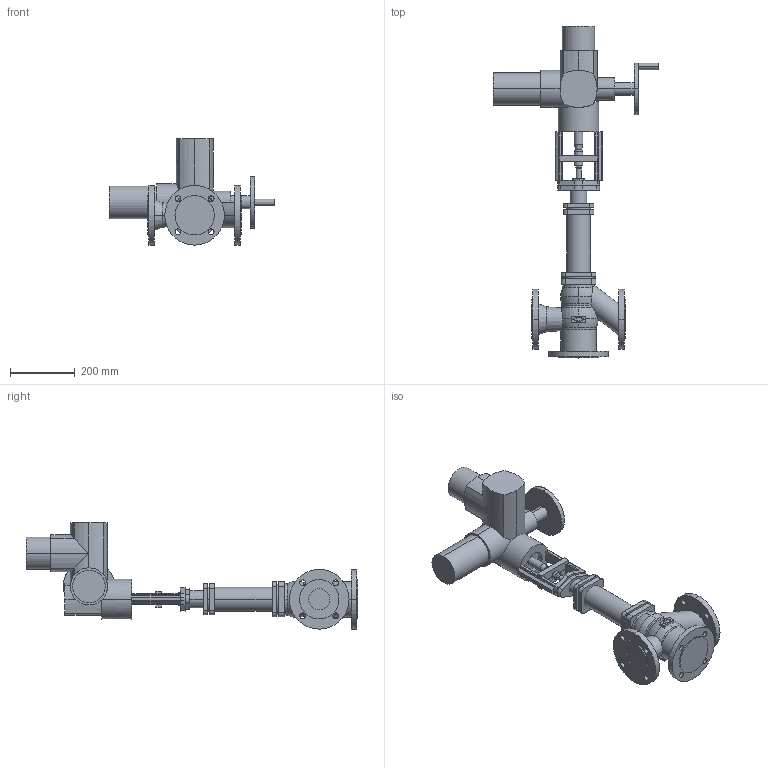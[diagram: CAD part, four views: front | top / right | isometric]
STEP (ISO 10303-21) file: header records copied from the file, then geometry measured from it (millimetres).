
FILE_DESCRIPTION(('OneSpaceDesigner STEP Export'),'2;1');
FILE_NAME('c000003195.stp','2007-01-25T11:50:35',(''),(''),'OneSpace Designer STEP processor for AP214 (Solid Model)','OneSpace Designer 14.00B 27-May-2006 (C) CoCreate Software GmbH','');
FILE_SCHEMA(('AUTOMOTIVE_DESIGN { 1 0 10303 214 1 1 1 1 }'));
Length unit declared in the file: millimetre
Products named in the file (2): 1; 2
Bounding box: 514 x 1029 x 329.5 mm (x, y, z)
Volume: 14442195.6 mm3; surface area: 862728.8 mm2
Topology: 2 solids, 2 shells, 337 faces, 871 edges, 561 vertices
Faces by surface type: cylinder 160, plane 151, torus 18, cone 8
Entity records: 9797 total; most frequent: CARTESIAN_POINT 2087, ORIENTED_EDGE 1742, DIRECTION 1438, EDGE_CURVE 871, VERTEX_POINT 561, AXIS2_PLACEMENT_3D 492, VECTOR 454, LINE 454
